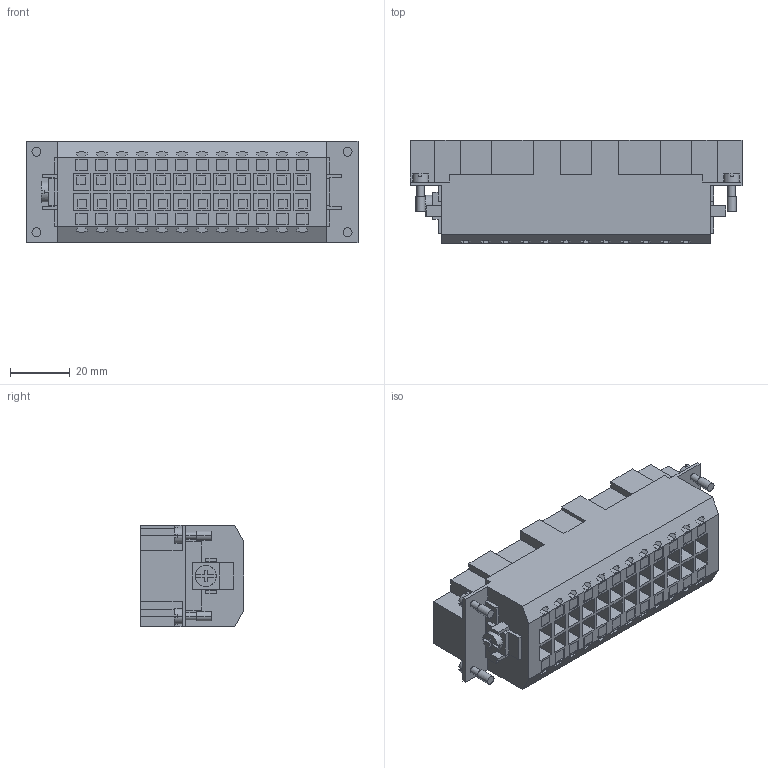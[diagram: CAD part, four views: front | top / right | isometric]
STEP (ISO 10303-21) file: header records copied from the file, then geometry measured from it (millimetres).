
FILE_DESCRIPTION (( 'STEP AP203' ), '1' );
FILE_NAME ('352268.STEP', '2025-06-27T11:10:34', ( '' ), ( '' ), 'SwSTEP 2.0', 'SolidWorks 2018', '' );
FILE_SCHEMA (( 'CONFIG_CONTROL_DESIGN' ));
Length unit declared in the file: millimetre
Products named in the file (1): 352268
Bounding box: 111 x 34.6 x 34 mm (x, y, z)
Volume: 72901 mm3; surface area: 31426.5 mm2
Topology: 1 solids, 1 shells, 975 faces, 2514 edges, 1652 vertices
Faces by surface type: plane 803, cylinder 124, sphere 48
Entity records: 28669 total; most frequent: CARTESIAN_POINT 4998, ORIENTED_EDGE 4836, DIRECTION 4702, EDGE_CURVE 2418, VECTOR 2086, LINE 2086, VERTEX_POINT 1604, AXIS2_PLACEMENT_3D 1308
